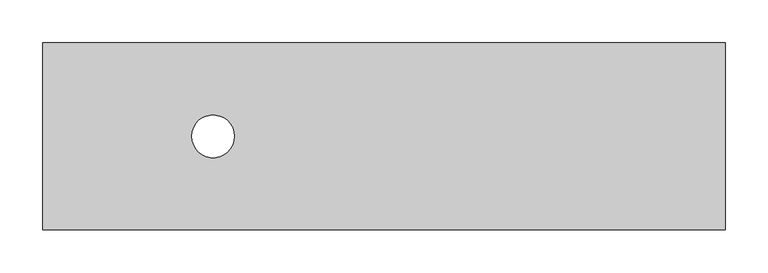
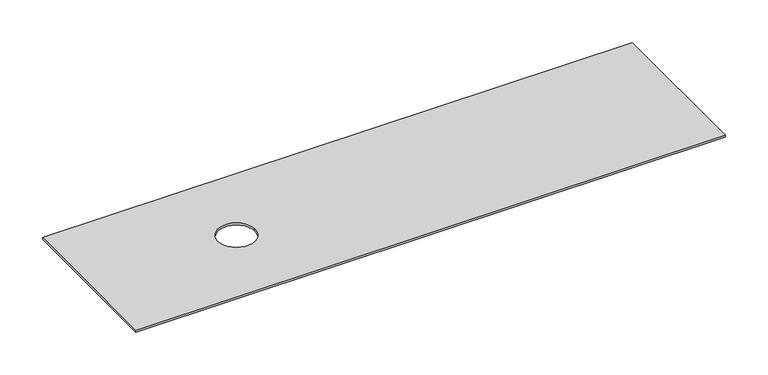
"""IFC4 building model written with IfcOpenShell, lengths in millimetres: proxy geometry, Electrical_Installation_Hager_Cover-GBZ-BKA : Electrical_Installation_Hager_Cover-GBZ-BKA."""

import ifcopenshell
import ifcopenshell.guid

model = None  # the IFC model being written
_history = None  # IfcOwnerHistory: only IFC2X3 demands one
_inside = {}  # id of a spatial element -> (the spatial element, [elements in it])
_under = {}  # id of a project, library or spatial element -> (it, [spatial elements below it])
_declared = {}  # id of a project -> (the project, [libraries it declares])
_typed = {}  # id of a type object -> (the type object, [elements of that type])
_made_of = {}  # id of a material, layer set ... -> (it, [elements and type objects made of it])


def new_model(schema):
    """Start an empty IFC model of exactly this schema.

    Asked for "IFC4X3", IfcOpenShell would pick the latest addendum, in which some entities
    have other attributes; the version numbers below select the first issue.
    IFC2X3 requires an IfcOwnerHistory on every rooted entity: one is made here for all.
    """
    global model, _history
    if schema == "IFC4X3":
        model = ifcopenshell.file(schema_version=(4, 3, 0, 0))
    else:
        model = ifcopenshell.file(schema=schema)
    _inside.clear()
    _under.clear()
    _declared.clear()
    _typed.clear()
    _made_of.clear()
    _history = None
    if model.schema == "IFC2X3":
        org = make("IfcOrganization", Name="unknown")
        user = make(
            "IfcPersonAndOrganization",
            ThePerson=make("IfcPerson", FamilyName="unknown"),
            TheOrganization=org,
        )
        app = make(
            "IfcApplication",
            ApplicationDeveloper=org,
            Version="unknown",
            ApplicationFullName="unknown",
            ApplicationIdentifier="unknown",
        )
        _history = make(
            "IfcOwnerHistory",
            OwningUser=user,
            OwningApplication=app,
            ChangeAction="ADDED",
            CreationDate=0,
        )
    return model


def make(cls, **values):
    """One entity of the class cls with the attributes given. An attribute that is None is left unset."""
    return model.create_entity(
        cls, **{name: value for name, value in values.items() if value is not None}
    )


def rooted(cls, **values):
    """An entity with a GlobalId (a new one), such as an element, a storey or a relation."""
    return make(cls, GlobalId=ifcopenshell.guid.new(), OwnerHistory=_history, **values)


def si_unit(unit_type, name, prefix=None):
    """IfcSIUnit, for example si_unit("LENGTHUNIT", "METRE", prefix="MILLI")."""
    return make("IfcSIUnit", UnitType=unit_type, Prefix=prefix, Name=name)


def assignment(units):
    """IfcUnitAssignment: the units of a project."""
    return None if units is None else make("IfcUnitAssignment", Units=units)


def point(xyz):
    """IfcCartesianPoint."""
    return None if xyz is None else make("IfcCartesianPoint", Coordinates=xyz)


def direction(xyz):
    """IfcDirection."""
    return None if xyz is None else make("IfcDirection", DirectionRatios=xyz)


def frame(location, z_axis=None, x_axis=None):
    """IfcAxis2Placement3D, a coordinate frame: its origin and axes. An axis left out is left unset."""
    return make(
        "IfcAxis2Placement3D",
        Location=point(location),
        Axis=direction(z_axis),
        RefDirection=direction(x_axis),
    )


def frame_2d(location, x_axis=None):
    """IfcAxis2Placement2D, a coordinate frame in the plane: its origin and x axis."""
    return make(
        "IfcAxis2Placement2D", Location=point(location), RefDirection=direction(x_axis)
    )


def origin():
    """The frame at (0, 0, 0) with its axes left unset."""
    return frame((0.0, 0.0, 0.0))


def place(relative_to, where):
    """IfcLocalPlacement: puts the frame where relative to a parent placement (None: the world)."""
    return make(
        "IfcLocalPlacement", PlacementRelTo=relative_to, RelativePlacement=where
    )


def context(
    kind, dimensions, precision=None, world=None, true_north=None, identifier=None
):
    """IfcGeometricRepresentationContext, for example the 3D "Model" context."""
    return make(
        "IfcGeometricRepresentationContext",
        ContextIdentifier=identifier,
        ContextType=kind,
        CoordinateSpaceDimension=dimensions,
        Precision=precision,
        WorldCoordinateSystem=world,
        TrueNorth=true_north,
    )


def project(units=None, contexts=None):
    """IfcProject with its units and contexts."""
    return rooted(
        "IfcProject",
        Name="project",
        RepresentationContexts=contexts,
        UnitsInContext=assignment(units),
    )


def spatial(cls, under=None, at=None, **own):
    """A site, building, storey or space (cls), placed at a placement, below another one or the project."""
    s = rooted(cls, ObjectPlacement=at, **own)
    if under is not None:
        _under.setdefault(under.id(), (under, []))[1].append(s)
    return s


def polyline(points):
    """IfcPolyline through the points."""
    return make("IfcPolyline", Points=[point(p) for p in points])


def circle_curve(where, radius):
    """IfcCircle in the frame where."""
    return make("IfcCircle", Position=where, Radius=radius)


def trimmed(basis, trim1, trim2, sense, master):
    """IfcTrimmedCurve: the piece of a basis curve between two trims."""
    return make(
        "IfcTrimmedCurve",
        BasisCurve=basis,
        Trim1=trim1,
        Trim2=trim2,
        SenseAgreement=sense,
        MasterRepresentation=master,
    )


def segment(curve, same_sense, transition):
    """IfcCompositeCurveSegment."""
    return make(
        "IfcCompositeCurveSegment",
        Transition=transition,
        SameSense=same_sense,
        ParentCurve=curve,
    )


def composite_curve(segments, self_intersect=None):
    """IfcCompositeCurve: segments joined end to end."""
    return make("IfcCompositeCurve", Segments=segments, SelfIntersect=self_intersect)


def outline(outer, holes=None, kind="AREA"):
    """IfcArbitraryClosedProfileDef: a profile drawn as a closed curve; with holes, ...WithVoids."""
    if holes is None:
        return make("IfcArbitraryClosedProfileDef", ProfileType=kind, OuterCurve=outer)
    return make(
        "IfcArbitraryProfileDefWithVoids",
        ProfileType=kind,
        OuterCurve=outer,
        InnerCurves=holes,
    )


def extrude(swept, where, along, depth):
    """IfcExtrudedAreaSolid: the profile swept, set in the frame where, extruded along a direction by depth."""
    return make(
        "IfcExtrudedAreaSolid",
        SweptArea=swept,
        Position=where,
        ExtrudedDirection=direction(along),
        Depth=depth,
    )


def shape(context_of_items, identifier, shape_type, items):
    """IfcShapeRepresentation: the items that make up one representation, for example the "Body"."""
    return make(
        "IfcShapeRepresentation",
        ContextOfItems=context_of_items,
        RepresentationIdentifier=identifier,
        RepresentationType=shape_type,
        Items=items,
    )


def source(mapping_origin, context_of_items, identifier, shape_type, items):
    """IfcRepresentationMap: a shape defined once, which mapped items show again and again."""
    return make(
        "IfcRepresentationMap",
        MappingOrigin=mapping_origin,
        MappedRepresentation=shape(context_of_items, identifier, shape_type, items),
    )


def transform(
    local_origin,
    x_axis=None,
    y_axis=None,
    z_axis=None,
    scale=None,
    scale2=None,
    scale3=None,
    uniform=True,
):
    """IfcCartesianTransformationOperator3D, or its non-uniform kind. x_axis, y_axis, z_axis: its Axis1, 2, 3."""
    if uniform:
        return make(
            "IfcCartesianTransformationOperator3D",
            Axis1=direction(x_axis),
            Axis2=direction(y_axis),
            LocalOrigin=point(local_origin),
            Scale=scale,
            Axis3=direction(z_axis),
        )
    return make(
        "IfcCartesianTransformationOperator3DnonUniform",
        Axis1=direction(x_axis),
        Axis2=direction(y_axis),
        LocalOrigin=point(local_origin),
        Scale=scale,
        Axis3=direction(z_axis),
        Scale2=scale2,
        Scale3=scale3,
    )


def mapped(mapping_source, mapping_target):
    """IfcMappedItem: shows the shape of a source again, moved by a transform."""
    return make(
        "IfcMappedItem", MappingSource=mapping_source, MappingTarget=mapping_target
    )


def made_of(thing, what):
    """Note that an element or type object is made of a material, layer set ...; save() writes the relation."""
    if what is not None:
        _made_of.setdefault(what.id(), (what, []))[1].append(thing)
    return thing


def element(
    cls,
    number,
    at=None,
    inside=None,
    cuts=None,
    type_object=None,
    material=None,
    context=None,
    identifier="Body",
    shape_type=None,
    held_by="IfcProductDefinitionShape",
    body=None,
    shapes=None,
    **own,
):
    """One element of the class cls, such as IfcWall. Its Tag is "e" and its number.

    at: its placement. inside: the storey or other place that contains it. cuts: it is an
    opening in that element (IfcRelVoidsElement). A single representation is given by context,
    identifier, shape_type and body (its items); several are given by shapes. held_by: the class
    of the entity that holds the representations. save() writes the other relations.
    """
    e = rooted(cls, Tag="e%d" % number, ObjectPlacement=at, **own)
    if body is not None:
        shapes = [shape(context, identifier, shape_type, body)]
    if shapes is not None:
        e.Representation = make(held_by, Representations=shapes)
    if inside is not None:
        _inside.setdefault(inside.id(), (inside, []))[1].append(e)
    if cuts is not None:
        rooted(
            "IfcRelVoidsElement", RelatingBuildingElement=cuts, RelatedOpeningElement=e
        )
    if type_object is not None:
        _typed.setdefault(type_object.id(), (type_object, []))[1].append(e)
    return made_of(e, material)


def aggregate(whole, parts):
    """IfcRelAggregates: a whole, such as a stair, and the parts it consists of."""
    return rooted("IfcRelAggregates", RelatingObject=whole, RelatedObjects=parts)


def save(model, path):
    """Write the relations noted so far, then the file.

    IfcRelAggregates (storeys below a building ...), IfcRelContainedInSpatialStructure (elements
    in a storey), IfcRelDefinesByType, IfcRelAssociatesMaterial and IfcRelDeclares: one each for
    every whole, place, type object, material and project.
    """
    for whole, parts in _under.values():
        aggregate(whole, parts)
    for where, things in _inside.values():
        rooted(
            "IfcRelContainedInSpatialStructure",
            RelatedElements=things,
            RelatingStructure=where,
        )
    for kind, things in _typed.values():
        rooted("IfcRelDefinesByType", RelatedObjects=things, RelatingType=kind)
    for what, things in _made_of.values():
        rooted("IfcRelAssociatesMaterial", RelatedObjects=things, RelatingMaterial=what)
    for by, libraries in _declared.values():
        rooted("IfcRelDeclares", RelatingContext=by, RelatedDefinitions=libraries)
    model.write(path)


def electrical_fixtures_e7818586(model_context):
    return source(origin(), model_context, "Body", "SweptSolid", [
        extrude(outline(polyline([(800.0, 109.75), (800.0, -109.75), (0.0, -109.75), (0.0, 109.75), (800.0, 109.75)]), holes=[composite_curve([segment(trimmed(circle_curve(frame_2d((199.7148726, 0.0)), 25.0), [point((174.7148726, 0.0))], [point((224.7148726, 0.0))], True, "CARTESIAN"), True, "CONTINUOUS"), segment(trimmed(circle_curve(frame_2d((199.7148726, 0.0)), 25.0), [point((224.7148726, 0.0))], [point((174.7148726, 0.0))], True, "CARTESIAN"), True, "CONTINUOUS")], self_intersect=False)]), frame((0.0, 0.0, 10.0), z_axis=(0.0, 0.0, 1.0), x_axis=(1.0, 0.0, 0.0)), (0.0, 0.0, 1.0), 3.0),
    ])


if __name__ == "__main__":
    model = new_model("IFC4")
    model_context = context("Model", 3, world=origin())
    ifc_project = project(units=[si_unit("LENGTHUNIT", "METRE", prefix="MILLI")], contexts=[model_context])
    site = spatial("IfcSite", under=ifc_project)
    building = spatial("IfcBuilding", under=site)
    placement = place(None, origin())
    electrical_fixtures_shape = electrical_fixtures_e7818586(model_context)
    element("IfcBuildingElementProxy", 1, Name="Electrical_Installation_Hager_Cover-GBZ-BKA : Electrical_Installation_Hager_Cover-GBZ-BKA", ObjectType="Electrical_Installation_Hager_Cover-GBZ-BKA : Electrical_Installation_Hager_Cover-GBZ-BKA", at=placement, inside=building, context=model_context, shape_type="MappedRepresentation", body=[
        mapped(electrical_fixtures_shape, transform((0.0, 0.0, 0.0), x_axis=(1.0, 0.0, 0.0), y_axis=(0.0, 1.0, 0.0), z_axis=(0.0, 0.0, 1.0))),
    ])
    save(model, "model.ifc")
